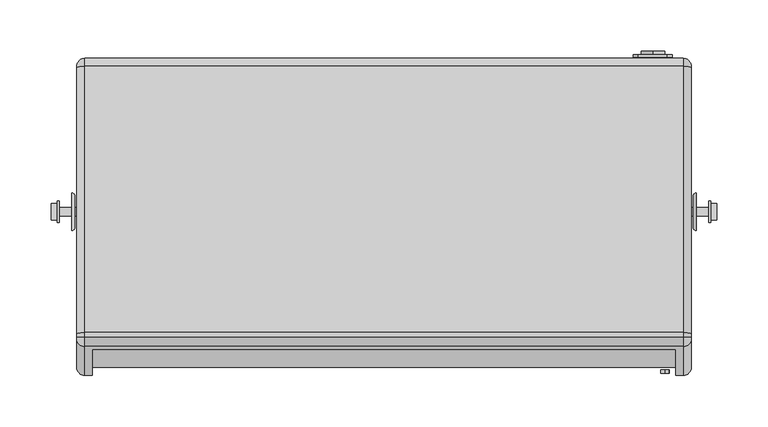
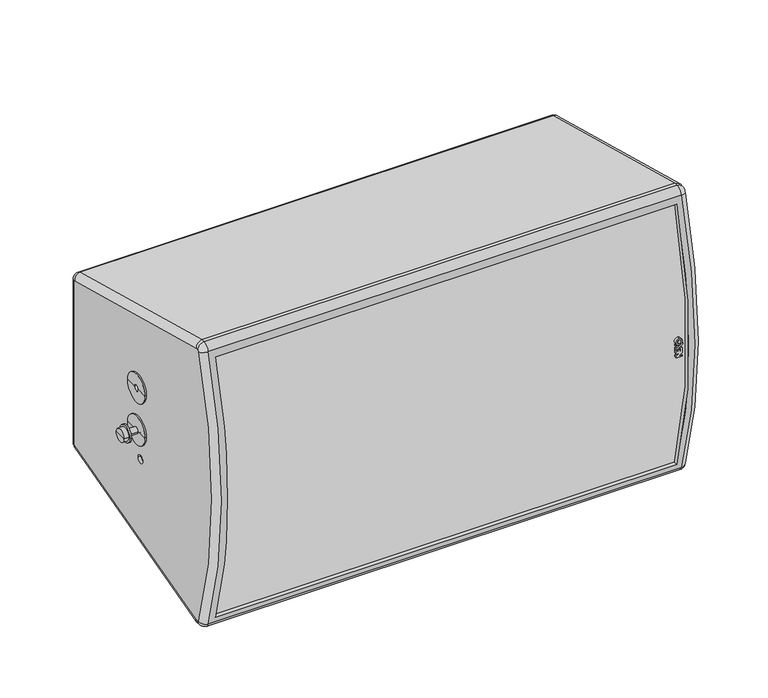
"""IFC4 building model written with IfcOpenShell, lengths in millimetres: proxy geometry, ePS12-WM380-HBRK600-WHM : ePS12-WM380-HBRK600-WHM."""

from ifc_helpers import new_model, si_unit, point, frame, frame_2d, origin, place, context, project, spatial, polyline, circle_curve, ellipse_curve, trimmed, segment, composite_curve, outline, extrude, source, transform, mapped, element, save
from ifc_brep_helpers import plane_surface, cylinder_surface, revolved_surface, advanced_brep


def generic_models_40186b0a(model_context):
    return source(origin(), model_context, "Body", "SolidModel", [
        extrude(outline(polyline([(-318.4376119, 270.5590531), (-318.4376119, 277.8388202), (-316.5452446, 277.8388202), (-316.5452446, 273.6734899), (-313.7701477, 277.8388202), (-306.919238, 277.8388202), (-305.6006657, 275.963849), (-306.6640428, 274.3643156), (-308.0335854, 276.2361557), (-311.0672147, 276.2361557), (-311.0672147, 274.9818684), (-308.7841019, 274.9818684), (-308.7841019, 273.3791381), (-311.0672147, 273.3791381), (-311.0672147, 272.1626349), (-308.66014, 272.1626349), (-308.66014, 271.3626349), (-309.1937988, 270.5599046), (-313.4621748, 270.5599046), (-313.4718664, 275.0099607), (-316.4111326, 270.5590531), (-318.4376119, 270.5590531)])), frame((0.0, -537.430519, 0.0), z_axis=(0.0, 1.0, 0.0), x_axis=(0.0, 0.0, 1.0)), (0.0, 0.0, 1.0), 3.5087945),
        extrude(outline(polyline([(-308.5524837, 270.5590531), (-303.0738645, 278.8), (-300.8806617, 278.8), (-306.3592809, 270.5590531), (-308.5524837, 270.5590531)])), frame((0.0, -537.430519, 0.0), z_axis=(0.0, 1.0, 0.0), x_axis=(0.0, 0.0, 1.0)), (0.0, 0.0, 1.0), 3.5087945),
        extrude(outline(polyline([(-301.8118496, 270.5590531), (-304.1386402, 270.5590531), (-304.8864345, 271.8270101), (-303.8022087, 273.457904), (-301.8118496, 270.5590531)])), frame((0.0, -537.430519, 0.0), z_axis=(0.0, 1.0, 0.0), x_axis=(0.0, 0.0, 1.0)), (0.0, 0.0, 1.0), 3.5087945),
        extrude(outline(composite_curve([segment(trimmed(circle_curve(frame_2d((-298.4262384, 274.2298911)), 3.9406238), [point((-302.3668623, 274.2298911))], [point((-294.4856146, 274.2298911))], False, "CARTESIAN"), True, "CONTINUOUS"), segment(trimmed(circle_curve(frame_2d((-298.4262384, 274.2298911)), 3.9406238), [point((-294.4856146, 274.2298911))], [point((-302.3668623, 274.2298911))], False, "CARTESIAN"), True, "CONTINUOUS")], self_intersect=False), holes=[composite_curve([segment(trimmed(circle_curve(frame_2d((-298.4262384, 274.2298911)), 2.0681078), [point((-300.4943462, 274.2298911))], [point((-296.3581307, 274.2298911))], True, "CARTESIAN"), True, "CONTINUOUS"), segment(trimmed(circle_curve(frame_2d((-298.4262384, 274.2298911)), 2.0681078), [point((-296.3581307, 274.2298911))], [point((-300.4943462, 274.2298911))], True, "CARTESIAN"), True, "CONTINUOUS")], self_intersect=False)]), frame((0.0, -537.430519, 0.0), z_axis=(0.0, 1.0, 0.0), x_axis=(0.0, 0.0, 1.0)), (0.0, 0.0, 1.0), 3.5087945),
        extrude(outline(composite_curve([segment(trimmed(circle_curve(frame_2d((-276.5012591, 262.5)), 11.4515227), [point((-265.0497365, 262.5))], [point((-287.9527818, 262.5))], False, "CARTESIAN"), True, "CONTINUOUS"), segment(trimmed(circle_curve(frame_2d((-276.5012591, 262.5)), 11.4515227), [point((-287.9527818, 262.5))], [point((-265.0497365, 262.5))], False, "CARTESIAN"), True, "CONTINUOUS")], self_intersect=False), holes=[composite_curve([segment(trimmed(circle_curve(frame_2d((-276.5012591, 262.5)), 5.0), [point((-271.5012591, 262.5))], [point((-281.5012591, 262.5))], True, "CARTESIAN"), True, "CONTINUOUS"), segment(trimmed(circle_curve(frame_2d((-276.5012591, 262.5)), 5.0), [point((-281.5012591, 262.5))], [point((-271.5012591, 262.5))], True, "CARTESIAN"), True, "CONTINUOUS")], self_intersect=False)]), frame((0.0, -225.9052646, 0.0), z_axis=(0.0, 1.0, 0.0), x_axis=(0.0, 0.0, 1.0)), (0.0, 0.0, 1.0), 3.4052646),
        extrude(outline(composite_curve([segment(trimmed(circle_curve(frame_2d((-336.5012591, 262.5)), 11.4515227), [point((-325.0497365, 262.5))], [point((-347.9527818, 262.5))], False, "CARTESIAN"), True, "CONTINUOUS"), segment(trimmed(circle_curve(frame_2d((-336.5012591, 262.5)), 11.4515227), [point((-347.9527818, 262.5))], [point((-325.0497365, 262.5))], False, "CARTESIAN"), True, "CONTINUOUS")], self_intersect=False), holes=[composite_curve([segment(trimmed(circle_curve(frame_2d((-336.5012591, 262.5)), 5.0), [point((-331.5012591, 262.5))], [point((-341.5012591, 262.5))], True, "CARTESIAN"), True, "CONTINUOUS"), segment(trimmed(circle_curve(frame_2d((-336.5012591, 262.5)), 5.0), [point((-341.5012591, 262.5))], [point((-331.5012591, 262.5))], True, "CARTESIAN"), True, "CONTINUOUS")], self_intersect=False)]), frame((0.0, -225.9052646, 0.0), z_axis=(0.0, 1.0, 0.0), x_axis=(0.0, 0.0, 1.0)), (0.0, 0.0, 1.0), 3.4052646),
        extrude(outline(composite_curve([segment(polyline([(-253.5012591, 243.5), (-359.5012591, 243.5)]), True, "CONTINUOUS"), segment(trimmed(circle_curve(frame_2d((-359.5012591, 248.5)), 5.0), [point((-359.5012591, 243.5))], [point((-364.5012591, 248.5))], False, "CARTESIAN"), True, "CONTINUOUS"), segment(polyline([(-364.5012591, 248.5), (-364.5012591, 276.5)]), True, "CONTINUOUS"), segment(trimmed(circle_curve(frame_2d((-359.5012591, 276.5)), 5.0), [point((-364.5012591, 276.5))], [point((-359.5012591, 281.5))], False, "CARTESIAN"), True, "CONTINUOUS"), segment(polyline([(-359.5012591, 281.5), (-253.5012591, 281.5)]), True, "CONTINUOUS"), segment(trimmed(circle_curve(frame_2d((-253.5012591, 276.5)), 5.0), [point((-253.5012591, 281.5))], [point((-248.5012591, 276.5))], False, "CARTESIAN"), True, "CONTINUOUS"), segment(polyline([(-248.5012591, 276.5), (-248.5012591, 248.5)]), True, "CONTINUOUS"), segment(trimmed(circle_curve(frame_2d((-253.5012591, 248.5)), 5.0), [point((-248.5012591, 248.5))], [point((-253.5012591, 243.5))], False, "CARTESIAN"), True, "CONTINUOUS")], self_intersect=False)), frame((0.0, -228.4052646, 0.0), z_axis=(0.0, 1.0, 0.0), x_axis=(0.0, 0.0, 1.0)), (0.0, 0.0, 1.0), 2.5),
        advanced_brep(
        [(-300.0, -239.0301041, -199.0530609), (-300.0, -237.5477422, -200.9849126), (-300.0, -237.5477422, -412.0176057), (-300.0, -239.0301041, -413.9494573), (-300.0, -498.6009622, -483.5012591), (-300.0, -501.8259262, -483.5012591), (-300.0, -503.7280348, -482.119307), (-300.0, -503.7280348, -130.8832113), (-300.0, -501.8259262, -129.5012591), (-300.0, -498.6009622, -129.5012591), (-300.0, -384.5, -306.5012591), (-300.0, -374.5, -306.5012591), (-300.0, -384.5, -346.5012591), (-300.0, -374.5, -346.5012591), (-300.0, -384.5, -266.5012591), (-300.0, -374.5, -266.5012591), (300.0, -237.5477422, -200.9849126), (300.0, -239.0301041, -199.0530609), (300.0, -498.6009622, -129.5012591), (300.0, -501.8259262, -129.5012591), (300.0, -503.7280348, -130.8832113), (300.0, -503.7280348, -482.119307), (300.0, -501.8259262, -483.5012591), (300.0, -498.6009622, -483.5012591), (300.0, -239.0301041, -413.9494573), (300.0, -237.5477422, -412.0176057), (300.0, -374.5, -306.5012591), (300.0, -384.5, -306.5012591), (300.0, -374.5, -346.5012591), (300.0, -384.5, -346.5012591), (300.0, -374.5, -266.5012591), (300.0, -384.5, -266.5012591), (-296.0, -374.5, -306.5012591), (-296.0, -384.5, -306.5012591), (-296.0, -374.5, -346.5012591), (-296.0, -384.5, -346.5012591), (-296.0, -374.5, -266.5012591), (-296.0, -384.5, -266.5012591), (-285.0, -513.8995103, -476.5012591), (-285.0, -508.7156738, -476.5012591), (-285.0, -508.7156738, -136.5012591), (-285.0, -513.8995103, -136.5012591), (285.0, -513.8995103, -136.5012591), (285.0, -508.7156738, -136.5012591), (285.0, -508.7156738, -476.5012591), (285.0, -513.8995103, -476.5012591), (296.0, -374.5, -306.5012591), (296.0, -384.5, -306.5012591), (296.0, -374.5, -346.5012591), (296.0, -384.5, -346.5012591), (296.0, -374.5, -266.5012591), (296.0, -384.5, -266.5012591), (0.0, -234.5, -335.8445414), (0.0, -234.5, -347.1578618), (0.0, -234.5, -265.8445414), (0.0, -234.5, -277.1578618), (-70.0, -234.5, -335.8445414), (-70.0, -234.5, -347.1578618), (0.0, -229.5477422, -347.1578618), (0.0, -229.5477422, -335.8445414), (0.0, -229.5477422, -277.1578618), (0.0, -229.5477422, -265.8445414), (-292.0, -229.5477422, -412.0176057), (-292.0, -229.5477422, -200.9849126), (292.0000078, -229.5477422, -200.9849126), (292.0, -229.5477422, -412.0176057), (-70.0, -229.5477422, -347.1578618), (-70.0, -229.5477422, -335.8445414), (-292.0, -236.9595518, -421.676864), (292.0, -236.9595518, -421.676864), (-292.0, -497.5477422, -491.5012591), (292.0, -497.5477422, -491.5012591), (-292.0, -501.8259262, -491.5012591), (292.0, -501.8259262, -491.5012591), (-292.0, -511.3364689, -128.4110201), (-292.0, -511.3364689, -484.5914982), (292.0000037, -511.3364689, -484.5914982), (292.0, -511.3364689, -128.4110201), (-292.0, -497.5477422, -121.5012591), (-292.0, -501.8259262, -121.5012591), (292.0, -501.8259262, -121.5012591), (292.0, -497.5477422, -121.5012591), (-292.0, -236.9595518, -191.3256543), (292.0, -236.9595518, -191.3256543)],
        [
            (0, 1, circle_curve(frame((-300.0, -239.5477422, -200.9849126), z_axis=(-1.0, 0.0, 0.0), x_axis=(0.0, 1.0, 0.0)), 2.0)),
            (1, 2),
            (2, 3, circle_curve(frame((-300.0, -239.5477422, -412.0176057), z_axis=(-1.0, 0.0, 0.0), x_axis=(0.0, 0.2588190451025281, -0.9659258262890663)), 2.0)),
            (3, 4),
            (4, 5),
            (5, 6, circle_curve(frame((-300.0, -501.8259262, -481.5012591), z_axis=(-1.0, 0.0, 0.0), x_axis=(0.0, -0.9510542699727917, -0.3090239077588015)), 2.0)),
            (6, 7, circle_curve(frame((-300.0, 36.7553714, -306.5012591), z_axis=(-1.0, 0.0, 0.0), x_axis=(0.0, -0.9510542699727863, 0.309023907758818)), 568.2992267)),
            (7, 8, circle_curve(frame((-300.0, -501.8259262, -131.5012591), z_axis=(-1.0, 0.0, 0.0), x_axis=(0.0, 0.0, 1.0)), 2.0)),
            (8, 9),
            (9, 0),
            (10, 11, circle_curve(frame((-300.0, -379.5, -306.5012591), z_axis=(1.0, 0.0, 0.0), x_axis=(0.0, -1.0, 0.0)), 5.0)),
            (11, 10, circle_curve(frame((-300.0, -379.5, -306.5012591), z_axis=(1.0, 0.0, 0.0), x_axis=(0.0, -1.0, 0.0)), 5.0)),
            (12, 13, circle_curve(frame((-300.0, -379.5, -346.5012591), z_axis=(1.0, 0.0, 0.0), x_axis=(0.0, -1.0, 0.0)), 5.0)),
            (13, 12, circle_curve(frame((-300.0, -379.5, -346.5012591), z_axis=(1.0, 0.0, 0.0), x_axis=(0.0, -1.0, 0.0)), 5.0)),
            (14, 15, circle_curve(frame((-300.0, -379.5, -266.5012591), z_axis=(1.0, 0.0, 0.0), x_axis=(0.0, -1.0, 0.0)), 5.0)),
            (15, 14, circle_curve(frame((-300.0, -379.5, -266.5012591), z_axis=(1.0, 0.0, 0.0), x_axis=(0.0, -1.0, 0.0)), 5.0)),
            (16, 17, circle_curve(frame((300.0, -239.5477422, -200.9849126), z_axis=(1.0, 0.0, 0.0), x_axis=(0.0, 1.0, 0.0)), 2.0)),
            (17, 18),
            (18, 19),
            (19, 20, circle_curve(frame((300.0, -501.8259262, -131.5012591), z_axis=(1.0, 0.0, 0.0), x_axis=(0.0, 0.0, 1.0)), 2.0)),
            (20, 21, circle_curve(frame((300.0, 36.7553714, -306.5012591), z_axis=(1.0, 0.0, 0.0), x_axis=(0.0, -0.9510542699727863, 0.309023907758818)), 568.2992267)),
            (21, 22, circle_curve(frame((300.0, -501.8259262, -481.5012591), z_axis=(1.0, 0.0, 0.0), x_axis=(0.0, -0.9510542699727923, -0.3090239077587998)), 2.0)),
            (22, 23),
            (23, 24),
            (24, 25, circle_curve(frame((300.0, -239.5477422, -412.0176057), z_axis=(1.0, 0.0, 0.0), x_axis=(0.0, 0.258819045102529, -0.9659258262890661)), 2.0)),
            (25, 16),
            (26, 27, circle_curve(frame((300.0, -379.5, -306.5012591), z_axis=(-1.0, 0.0, 0.0), x_axis=(0.0, -1.0, 0.0)), 5.0)),
            (27, 26, circle_curve(frame((300.0, -379.5, -306.5012591), z_axis=(-1.0, 0.0, 0.0), x_axis=(0.0, -1.0, 0.0)), 5.0)),
            (28, 29, circle_curve(frame((300.0, -379.5, -346.5012591), z_axis=(-1.0, 0.0, 0.0), x_axis=(0.0, -1.0, 0.0)), 5.0)),
            (29, 28, circle_curve(frame((300.0, -379.5, -346.5012591), z_axis=(-1.0, 0.0, 0.0), x_axis=(0.0, -1.0, 0.0)), 5.0)),
            (30, 31, circle_curve(frame((300.0, -379.5, -266.5012591), z_axis=(-1.0, 0.0, 0.0), x_axis=(0.0, -1.0, 0.0)), 5.0)),
            (31, 30, circle_curve(frame((300.0, -379.5, -266.5012591), z_axis=(-1.0, 0.0, 0.0), x_axis=(0.0, -1.0, 0.0)), 5.0)),
            (32, 33, circle_curve(frame((-296.0, -379.5, -306.5012591), z_axis=(-1.0, 0.0, 0.0), x_axis=(0.0, -1.0, 0.0)), 5.0)),
            (33, 32, circle_curve(frame((-296.0, -379.5, -306.5012591), z_axis=(-1.0, 0.0, 0.0), x_axis=(0.0, -1.0, 0.0)), 5.0)),
            (34, 35, circle_curve(frame((-296.0, -379.5, -346.5012591), z_axis=(-1.0, 0.0, 0.0), x_axis=(0.0, -1.0, 0.0)), 5.0)),
            (35, 34, circle_curve(frame((-296.0, -379.5, -346.5012591), z_axis=(-1.0, 0.0, 0.0), x_axis=(0.0, -1.0, 0.0)), 5.0)),
            (36, 37, circle_curve(frame((-296.0, -379.5, -266.5012591), z_axis=(-1.0, 0.0, 0.0), x_axis=(0.0, -1.0, 0.0)), 5.0)),
            (37, 36, circle_curve(frame((-296.0, -379.5, -266.5012591), z_axis=(-1.0, 0.0, 0.0), x_axis=(0.0, -1.0, 0.0)), 5.0)),
            (32, 11),
            (10, 33),
            (34, 13),
            (12, 35),
            (36, 15),
            (14, 37),
            (38, 39),
            (39, 40, circle_curve(frame((-285.0, 43.2564106, -306.5012591), z_axis=(-1.0, 0.0, 0.0), x_axis=(0.0, 0.0, 1.0)), 577.5579469)),
            (40, 41),
            (41, 38, circle_curve(frame((-285.0, 36.7553714, -306.5012591), z_axis=(1.0, 0.0, 0.0), x_axis=(0.0, 0.0, 1.0)), 576.2992267)),
            (42, 43),
            (43, 44, circle_curve(frame((285.0, 43.2564106, -306.5012591), z_axis=(1.0, 0.0, 0.0), x_axis=(0.0, 0.0, 1.0)), 577.5579469)),
            (44, 45),
            (45, 42, circle_curve(frame((285.0, 36.7553714, -306.5012591), z_axis=(-1.0, 0.0, 0.0), x_axis=(0.0, 0.0, 1.0)), 576.2992267)),
            (46, 47, circle_curve(frame((296.0, -379.5, -306.5012591), z_axis=(1.0, 0.0, 0.0), x_axis=(0.0, -1.0, 0.0)), 5.0)),
            (47, 46, circle_curve(frame((296.0, -379.5, -306.5012591), z_axis=(1.0, 0.0, 0.0), x_axis=(0.0, -1.0, 0.0)), 5.0)),
            (48, 49, circle_curve(frame((296.0, -379.5, -346.5012591), z_axis=(1.0, 0.0, 0.0), x_axis=(0.0, -1.0, 0.0)), 5.0)),
            (49, 48, circle_curve(frame((296.0, -379.5, -346.5012591), z_axis=(1.0, 0.0, 0.0), x_axis=(0.0, -1.0, 0.0)), 5.0)),
            (50, 51, circle_curve(frame((296.0, -379.5, -266.5012591), z_axis=(1.0, 0.0, 0.0), x_axis=(0.0, -1.0, 0.0)), 5.0)),
            (51, 50, circle_curve(frame((296.0, -379.5, -266.5012591), z_axis=(1.0, 0.0, 0.0), x_axis=(0.0, -1.0, 0.0)), 5.0)),
            (47, 27),
            (26, 46),
            (49, 29),
            (28, 48),
            (51, 31),
            (30, 50),
            (52, 53, circle_curve(frame((0.0, -234.5, -341.5012016), z_axis=(0.0, 1.0, 0.0), x_axis=(0.0, 0.0, -1.0)), 5.6566602)),
            (53, 52, circle_curve(frame((0.0, -234.5, -341.5012016), z_axis=(0.0, 1.0, 0.0), x_axis=(0.0, 0.0, -1.0)), 5.6566602)),
            (54, 55, circle_curve(frame((0.0, -234.5, -271.5012016), z_axis=(0.0, 1.0, 0.0), x_axis=(0.0, 0.0, -1.0)), 5.6566602)),
            (55, 54, circle_curve(frame((0.0, -234.5, -271.5012016), z_axis=(0.0, 1.0, 0.0), x_axis=(0.0, 0.0, -1.0)), 5.6566602)),
            (56, 57, circle_curve(frame((-70.0, -234.5, -341.5012016), z_axis=(0.0, 1.0, 0.0), x_axis=(0.0, 0.0, -1.0)), 5.6566602)),
            (57, 56, circle_curve(frame((-70.0, -234.5, -341.5012016), z_axis=(0.0, 1.0, 0.0), x_axis=(0.0, 0.0, -1.0)), 5.6566602)),
            (53, 58),
            (58, 59, circle_curve(frame((0.0, -229.5477422, -341.5012016), z_axis=(0.0, 1.0, 0.0), x_axis=(0.0, 0.0, -1.0)), 5.6566602)),
            (59, 52),
            (59, 58, circle_curve(frame((0.0, -229.5477422, -341.5012016), z_axis=(0.0, 1.0, 0.0), x_axis=(0.0, 0.0, -1.0)), 5.6566602)),
            (55, 60),
            (60, 61, circle_curve(frame((0.0, -229.5477422, -271.5012016), z_axis=(0.0, 1.0, 0.0), x_axis=(0.0, 0.0, -1.0)), 5.6566602)),
            (61, 54),
            (61, 60, circle_curve(frame((0.0, -229.5477422, -271.5012016), z_axis=(0.0, 1.0, 0.0), x_axis=(0.0, 0.0, -1.0)), 5.6566602)),
            (62, 63),
            (63, 64),
            (64, 65),
            (65, 62),
            (66, 67, circle_curve(frame((-70.0, -229.5477422, -341.5012016), z_axis=(0.0, -1.0, 0.0), x_axis=(0.0, 0.0, -1.0)), 5.6566602)),
            (67, 66, circle_curve(frame((-70.0, -229.5477422, -341.5012016), z_axis=(0.0, -1.0, 0.0), x_axis=(0.0, 0.0, -1.0)), 5.6566602)),
            (68, 62, circle_curve(frame((-292.0, -239.5477422, -412.0176057), z_axis=(1.0, 0.0, 0.0), x_axis=(0.0, 0.0, 1.0)), 10.0)),
            (65, 69, circle_curve(frame((292.0, -239.5477422, -412.0176057), z_axis=(-1.0, 0.0, 0.0), x_axis=(0.0, 0.0, 1.0)), 10.0)),
            (69, 68),
            (70, 68),
            (69, 71),
            (71, 70),
            (72, 70),
            (71, 73),
            (73, 72),
            (74, 75, circle_curve(frame((-292.0, 36.7553714, -306.5012591), z_axis=(1.0, 0.0, 0.0), x_axis=(0.0, 0.0, 1.0)), 576.2992267)),
            (75, 76),
            (76, 77, circle_curve(frame((292.0, 36.7553714, -306.5012591), z_axis=(-1.0, 0.0, 0.0), x_axis=(0.0, 0.0, 1.0)), 576.2992267)),
            (77, 74),
            (41, 42),
            (45, 38),
            (78, 79),
            (79, 80),
            (80, 81),
            (81, 78),
            (82, 78),
            (81, 83),
            (83, 82),
            (63, 82, circle_curve(frame((-292.0, -239.5477422, -200.9849126), z_axis=(1.0, 0.0, 0.0), x_axis=(0.0, 0.0, 1.0)), 10.0)),
            (83, 64, circle_curve(frame((292.0, -239.5477422, -200.9849126), z_axis=(-1.0, 0.0, 0.0), x_axis=(0.0, 0.0, 1.0)), 10.0)),
            (56, 67),
            (66, 57),
            (40, 43),
            (39, 44),
            (75, 72, circle_curve(frame((-292.0, -501.8259262, -481.5012591), z_axis=(1.0, 0.0, 0.0), x_axis=(0.0, 0.0, 1.0)), 10.0)),
            (73, 76, circle_curve(frame((292.0, -501.8259262, -481.5012591), z_axis=(-1.0, 0.0, 0.0), x_axis=(0.0, 0.0, 1.0)), 10.0)),
            (79, 74, circle_curve(frame((-292.0, -501.8259262, -131.5012591), z_axis=(1.0, 0.0, 0.0), x_axis=(0.0, 0.0, 1.0)), 10.0)),
            (77, 80, circle_curve(frame((292.0, -501.8259262, -131.5012591), z_axis=(-1.0, 0.0, 0.0), x_axis=(0.0, 0.0, 1.0)), 10.0)),
            (0, 82, circle_curve(frame((-292.0, -239.0301041, -199.0530609), z_axis=(0.0, 0.9659258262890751, -0.2588190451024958), x_axis=(0.0, 0.2588190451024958, 0.9659258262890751)), 8.0)),
            (63, 1, circle_curve(frame((-292.0, -237.5477422, -200.9849126), z_axis=(0.0, 0.0, 1.0), x_axis=(0.0, 1.0, 0.0)), 8.0)),
            (9, 78, ellipse_curve(frame((-292.0, -498.6009622, -129.5012591), z_axis=(0.0, 0.9914448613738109, -0.13052619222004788), x_axis=(0.0, 0.1305261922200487, 0.9914448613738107)), 8.0690317, 8.0)),
            (8, 79, circle_curve(frame((-292.0, -501.8259262, -129.5012591), z_axis=(0.0, 1.0, 0.0), x_axis=(0.0, 0.0, 1.0)), 8.0)),
            (7, 74, circle_curve(frame((-292.0, -503.7280348, -130.8832113), z_axis=(0.0, 0.3090239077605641, 0.951054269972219), x_axis=(0.0, -0.951054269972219, 0.3090239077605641)), 8.0)),
            (6, 75, circle_curve(frame((-292.0, -503.7280348, -482.119307), z_axis=(0.0, -0.3090239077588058, 0.9510542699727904), x_axis=(0.0, -0.9510542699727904, -0.3090239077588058)), 8.0)),
            (5, 72, circle_curve(frame((-292.0, -501.8259262, -483.5012591), z_axis=(0.0, -1.0, 0.0), x_axis=(0.0, 0.0, -1.0)), 8.0)),
            (4, 70, ellipse_curve(frame((-292.0, -498.6009622, -483.5012591), z_axis=(0.0, -0.9914448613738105, -0.13052619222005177), x_axis=(0.0, 0.13052619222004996, -0.9914448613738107)), 8.0690317, 8.0)),
            (3, 68, circle_curve(frame((-292.0, -239.0301041, -413.9494573), z_axis=(0.0, -0.9659258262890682, -0.2588190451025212), x_axis=(0.0, 0.2588190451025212, -0.9659258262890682)), 8.0)),
            (2, 62, circle_curve(frame((-292.0, -237.5477422, -412.0176057), z_axis=(0.0, 0.0, -1.0), x_axis=(0.0, 1.0, 0.0)), 8.0)),
            (83, 17, circle_curve(frame((292.0, -239.0301041, -199.0530609), z_axis=(0.0, 0.9659258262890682, -0.25881904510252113), x_axis=(0.0, 0.25881904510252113, 0.9659258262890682)), 8.0)),
            (16, 64, circle_curve(frame((292.0, -237.5477422, -200.9849126), z_axis=(0.0, 0.0, 1.0), x_axis=(0.0, 1.0, 0.0)), 8.0)),
            (81, 18, ellipse_curve(frame((292.0, -498.6009622, -129.5012591), z_axis=(0.0, 0.9914448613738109, -0.1305261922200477), x_axis=(0.0, 0.13052619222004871, 0.9914448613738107)), 8.0690317, 8.0)),
            (80, 19, circle_curve(frame((292.0, -501.8259262, -129.5012591), z_axis=(0.0, 1.0, 0.0), x_axis=(0.0, 0.0, 1.0)), 8.0)),
            (77, 20, circle_curve(frame((292.0, -503.7280348, -130.8832113), z_axis=(0.0, 0.30902390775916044, 0.951054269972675), x_axis=(0.0, -0.951054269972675, 0.30902390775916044)), 8.0)),
            (76, 21, circle_curve(frame((292.0, -503.7280348, -482.119307), z_axis=(0.0, -0.3090239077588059, 0.9510542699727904), x_axis=(0.0, -0.9510542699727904, -0.3090239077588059)), 8.0)),
            (73, 22, circle_curve(frame((292.0, -501.8259262, -483.5012591), z_axis=(0.0, -0.9999999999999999, 0.0), x_axis=(0.0, 0.0, -0.9999999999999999)), 8.0)),
            (71, 23, ellipse_curve(frame((292.0, -498.6009622, -483.5012591), z_axis=(0.0, -0.9914448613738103, -0.13052619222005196), x_axis=(0.0, 0.13052619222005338, -0.9914448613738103)), 8.0690317, 8.0)),
            (69, 24, circle_curve(frame((292.0, -239.0301041, -413.9494573), z_axis=(0.0, -0.9659258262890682, -0.2588190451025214), x_axis=(0.0, 0.2588190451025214, -0.9659258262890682)), 8.0)),
            (65, 25, circle_curve(frame((292.0, -237.5477422, -412.0176057), z_axis=(0.0, 0.0, -1.0), x_axis=(0.0, 1.0, 0.0)), 8.0)),
        ],
        [
            plane_surface(frame((-300.0, -229.5477422, -418.1736814), z_axis=(-1.0, 0.0, 0.0), x_axis=(0.0, 0.0, -1.0))),
            plane_surface(frame((300.0, -229.5477422, -418.1736814), z_axis=(1.0, 0.0, 0.0), x_axis=(0.0, 0.0, 1.0))),
            plane_surface(frame((-296.0, -384.5, -306.5012591), z_axis=(-1.0, 0.0, 0.0), x_axis=(0.0, 0.0, -1.0))),
            revolved_surface(polyline([(-300.0, -384.5, -306.5012591), (-296.0, -384.5, -306.5012591)]), (-296.0, -379.5, -306.5012591), (-1.0, 0.0, 0.0)),
            revolved_surface(polyline([(-300.0, -384.5, -346.5012591), (-296.0, -384.5, -346.5012591)]), (-300.0, -379.5, -346.5012591), (-1.0, 0.0, 0.0)),
            revolved_surface(polyline([(-300.0, -384.5, -266.5012591), (-296.0, -384.5, -266.5012591)]), (-300.0, -379.5, -266.5012591), (-1.0, 0.0, 0.0)),
            plane_surface(frame((-285.0, -513.8995103, -136.5012591), z_axis=(1.0, 0.0, 0.0), x_axis=(0.0, 1.0, 0.0))),
            plane_surface(frame((285.0, -513.8995103, -136.5012591), z_axis=(-1.0, 0.0, 0.0), x_axis=(0.0, -1.0, 0.0))),
            plane_surface(frame((296.0, -384.5, -306.5012591), z_axis=(1.0, 0.0, 0.0), x_axis=(0.0, 0.0, 1.0))),
            revolved_surface(polyline([(296.0, -384.5, -306.5012591), (300.0, -384.5, -306.5012591)]), (304.0, -379.5, -306.5012591), (-1.0, 0.0, 0.0)),
            revolved_surface(polyline([(296.0, -384.5, -346.5012591), (300.0, -384.5, -346.5012591)]), (300.0, -379.5, -346.5012591), (-1.0, 0.0, 0.0)),
            revolved_surface(polyline([(296.0, -384.5, -266.5012591), (300.0, -384.5, -266.5012591)]), (300.0, -379.5, -266.5012591), (-1.0, 0.0, 0.0)),
            plane_surface(frame((0.0, -234.5, -347.1578618), z_axis=(0.0, 1.0, 0.0), x_axis=(1.0, 0.0, 0.0))),
            revolved_surface(polyline([(0.0, -229.5477422, -347.1578618), (0.0, -234.5, -347.1578618)]), (0.0, -234.5, -341.5012016), (0.0, 1.0, 0.0)),
            revolved_surface(polyline([(0.0, -229.5477422, -277.1578618), (0.0, -234.5, -277.1578618)]), (0.0, -222.5, -271.5012016), (0.0, 1.0, 0.0)),
            plane_surface(frame((-300.0, -229.5477422, -200.9849126), z_axis=(0.0, 1.0, 0.0), x_axis=(1.0, 0.0, 0.0))),
            cylinder_surface(frame((300.0, -239.5477422, -412.0176057), z_axis=(-1.0, 0.0, 0.0), x_axis=(0.0, 0.0, 1.0)), 10.0),
            plane_surface(frame((-300.0, -236.9595518, -421.676864), z_axis=(0.0, 0.2588190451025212, -0.9659258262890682), x_axis=(1.0, 0.0, 0.0))),
            plane_surface(frame((-300.0, -497.5477422, -491.5012591), z_axis=(0.0, 0.0, -1.0), x_axis=(1.0, 0.0, 0.0))),
            cylinder_surface(frame((300.0, 36.7553714, -306.5012591), z_axis=(-1.0, 0.0, 0.0), x_axis=(0.0, 0.0, 1.0)), 576.2992267),
            plane_surface(frame((-300.0, -501.8259262, -121.5012591), z_axis=(0.0, 0.0, 1.0), x_axis=(1.0, 0.0, 0.0))),
            plane_surface(frame((-300.0, -497.5477422, -121.5012591), z_axis=(0.0, 0.2588190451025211, 0.9659258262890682), x_axis=(1.0, 0.0, 0.0))),
            cylinder_surface(frame((300.0, -239.5477422, -200.9849126), z_axis=(-1.0, 0.0, 0.0), x_axis=(0.0, 0.0, 1.0)), 10.0),
            revolved_surface(polyline([(-70.0, -229.5477422, -347.1578618), (-70.0, -234.5, -347.1578618)]), (-70.0, -222.5, -341.5012016), (0.0, 1.0, 0.0)),
            plane_surface(frame((-285.0, -513.8995103, -136.5012591), z_axis=(0.0, 0.0, -1.0), x_axis=(1.0, 0.0, 0.0))),
            cylinder_surface(frame((285.0, 43.2564106, -306.5012591), z_axis=(1.0, 0.0, 0.0), x_axis=(0.0, 0.0, 1.0)), 577.5579469),
            plane_surface(frame((-285.0, -508.7156738, -476.5012591), z_axis=(0.0, 0.0, 1.0), x_axis=(1.0, 0.0, 0.0))),
            cylinder_surface(frame((300.0, -501.8259262, -481.5012591), z_axis=(-1.0, 0.0, 0.0), x_axis=(0.0, 0.0, 1.0)), 10.0),
            cylinder_surface(frame((300.0, -501.8259262, -131.5012591), z_axis=(-1.0, 0.0, 0.0), x_axis=(0.0, 0.0, 1.0)), 10.0),
            revolved_surface(trimmed(ellipse_curve(frame((-292.0, -237.5477422, -200.9849126), z_axis=(0.0, 0.0, -1.0), x_axis=(0.0, 1.0, 0.0)), 8.0, 8.0), [point((-300.0, -237.5477422, -200.9849126))], [point((-292.0, -229.5477422, -200.9849126))], True, "CARTESIAN"), (-300.0, -239.5477422, -200.9849126), (1.0, 0.0, 0.0)),
            cylinder_surface(frame((-292.0, -239.0301041, -199.0530609), z_axis=(0.0, -0.9659258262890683, 0.25881904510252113), x_axis=(0.0, 0.25881904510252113, 0.9659258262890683)), 8.0),
            cylinder_surface(frame((-292.0, -497.5477422, -129.5012591), z_axis=(0.0, -1.0, 0.0), x_axis=(0.0, 0.0, 1.0)), 8.0),
            revolved_surface(trimmed(ellipse_curve(frame((-292.0, -501.8259262, -129.5012591), z_axis=(0.0, 1.0, 0.0), x_axis=(0.0, 0.0, 1.0)), 8.0, 8.0), [point((-300.0, -501.8259262, -129.5012591))], [point((-292.0, -501.8259262, -121.5012591))], True, "CARTESIAN"), (-300.0, -501.8259262, -131.5012591), (1.0, 0.0, 0.0)),
            revolved_surface(trimmed(ellipse_curve(frame((-292.0, -503.7280348, -130.8832113), z_axis=(0.0, 0.3090239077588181, 0.9510542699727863), x_axis=(0.0, -0.9510542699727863, 0.3090239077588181)), 8.0, 8.0), [point((-300.0, -503.7280348, -130.8832113))], [point((-292.0, -511.3364689, -128.4110201))], True, "CARTESIAN"), (-300.0, 36.7553714, -306.5012591), (1.0, 0.0, 0.0)),
            revolved_surface(trimmed(ellipse_curve(frame((-292.0, -503.7280348, -482.119307), z_axis=(0.0, -0.3090239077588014, 0.9510542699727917), x_axis=(0.0, -0.9510542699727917, -0.3090239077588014)), 8.0, 8.0), [point((-300.0, -503.7280348, -482.119307))], [point((-292.0, -511.3364689, -484.5914982))], True, "CARTESIAN"), (-300.0, -501.8259262, -481.5012591), (1.0, 0.0, 0.0)),
            cylinder_surface(frame((-292.0, -501.8259262, -483.5012591), z_axis=(0.0, 1.0, 0.0), x_axis=(0.0, 0.0, -1.0)), 8.0),
            cylinder_surface(frame((-292.0, -499.6182946, -483.7738525), z_axis=(0.0, 0.9659258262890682, 0.2588190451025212), x_axis=(0.0, 0.2588190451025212, -0.9659258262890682)), 8.0),
            revolved_surface(trimmed(ellipse_curve(frame((-292.0, -239.0301041, -413.9494573), z_axis=(0.0, -0.9659258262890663, -0.25881904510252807), x_axis=(0.0, 0.25881904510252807, -0.9659258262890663)), 8.0, 8.0), [point((-300.0, -239.0301041, -413.9494573))], [point((-292.0, -236.9595518, -421.676864))], True, "CARTESIAN"), (-300.0, -239.5477422, -412.0176057), (1.0, 0.0, 0.0)),
            cylinder_surface(frame((-292.0, -237.5477422, -412.0176057), z_axis=(0.0, 0.0, 1.0), x_axis=(0.0, 1.0, 0.0)), 8.0),
            revolved_surface(trimmed(ellipse_curve(frame((292.0, -237.5477422, -200.9849126), z_axis=(0.0, 0.0, -1.0), x_axis=(0.0, 1.0, 0.0)), 8.0, 8.0), [point((292.0, -229.5477422, -200.9849126))], [point((300.0, -237.5477422, -200.9849126))], True, "CARTESIAN"), (300.0, -239.5477422, -200.9849126), (1.0, 0.0, 0.0)),
            cylinder_surface(frame((292.0, -239.0301041, -199.0530609), z_axis=(0.0, -0.9659258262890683, 0.2588190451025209), x_axis=(0.0, 0.2588190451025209, 0.9659258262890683)), 8.0),
            cylinder_surface(frame((292.0, -497.5477422, -129.5012591), z_axis=(0.0, -1.0, 0.0), x_axis=(0.0, 0.0, 1.0)), 8.0),
            revolved_surface(trimmed(ellipse_curve(frame((292.0, -501.8259262, -129.5012591), z_axis=(0.0, 1.0, 0.0), x_axis=(0.0, 0.0, 1.0)), 8.0, 8.0), [point((292.0, -501.8259262, -121.5012591))], [point((300.0, -501.8259262, -129.5012591))], True, "CARTESIAN"), (300.0, -501.8259262, -131.5012591), (1.0, 0.0, 0.0)),
            revolved_surface(trimmed(ellipse_curve(frame((292.0, -503.7280348, -130.8832113), z_axis=(0.0, 0.3090239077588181, 0.9510542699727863), x_axis=(0.0, -0.9510542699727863, 0.3090239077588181)), 8.0, 8.0), [point((292.0, -511.3364689, -128.4110201))], [point((300.0, -503.7280348, -130.8832113))], True, "CARTESIAN"), (300.0, 36.7553714, -306.5012591), (1.0, 0.0, 0.0)),
            revolved_surface(trimmed(ellipse_curve(frame((292.0, -503.7280348, -482.119307), z_axis=(0.0, -0.30902390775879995, 0.9510542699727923), x_axis=(0.0, -0.9510542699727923, -0.30902390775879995)), 8.0, 8.0), [point((292.0, -511.3364689, -484.5914982))], [point((300.0, -503.7280348, -482.119307))], True, "CARTESIAN"), (300.0, -501.8259262, -481.5012591), (1.0, 0.0, 0.0)),
            cylinder_surface(frame((292.0, -501.8259262, -483.5012591), z_axis=(0.0, 1.0, 0.0), x_axis=(0.0, 0.0, -1.0)), 8.0),
            cylinder_surface(frame((292.0, -499.6182946, -483.7738525), z_axis=(0.0, 0.9659258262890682, 0.2588190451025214), x_axis=(0.0, 0.2588190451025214, -0.9659258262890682)), 8.0),
            revolved_surface(trimmed(ellipse_curve(frame((292.0, -239.0301041, -413.9494573), z_axis=(0.0, -0.9659258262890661, -0.2588190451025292), x_axis=(0.0, 0.2588190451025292, -0.9659258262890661)), 8.0, 8.0), [point((292.0, -236.9595518, -421.676864))], [point((300.0, -239.0301041, -413.9494573))], True, "CARTESIAN"), (300.0, -239.5477422, -412.0176057), (1.0, 0.0, 0.0)),
            cylinder_surface(frame((292.0, -237.5477422, -412.0176057), z_axis=(0.0, 0.0, 1.0), x_axis=(0.0, 1.0, 0.0)), 8.0),
        ],
        [
            (0, [[1, 2, 3, 4, 5, 6, 7, 8, 9, 10], [11, 12], [13, 14], [15, 16]]),
            (1, [[17, 18, 19, 20, 21, 22, 23, 24, 25, 26], [27, 28], [29, 30], [31, 32]]),
            (2, [[33, 34]]),
            (2, [[35, 36]]),
            (2, [[37, 38]]),
            (3, [[-33, 39, -11, 40]]),
            (3, [[-34, -40, -12, -39]]),
            (4, [[-35, 41, -13, 42]]),
            (4, [[-36, -42, -14, -41]]),
            (5, [[-37, 43, -15, 44]]),
            (5, [[-38, -44, -16, -43]]),
            (6, [[45, 46, 47, 48]]),
            (7, [[49, 50, 51, 52]]),
            (8, [[53, 54]]),
            (8, [[55, 56]]),
            (8, [[57, 58]]),
            (9, [[-54, 59, -27, 60]]),
            (9, [[-53, -60, -28, -59]]),
            (10, [[-56, 61, -29, 62]]),
            (10, [[-55, -62, -30, -61]]),
            (11, [[-58, 63, -31, 64]]),
            (11, [[-57, -64, -32, -63]]),
            (12, [[65, 66]]),
            (12, [[67, 68]]),
            (12, [[69, 70]]),
            (13, [[-66, 71, 72, 73]]),
            (13, [[-65, -73, 74, -71]]),
            (14, [[-68, 75, 76, 77]]),
            (14, [[-67, -77, 78, -75]]),
            (15, [[79, 80, 81, 82], [-72, -74], [-76, -78], [83, 84]]),
            (16, [[85, -82, 86, 87]]),
            (17, [[88, -87, 89, 90]]),
            (18, [[91, -90, 92, 93]]),
            (19, [[94, 95, 96, 97], [-48, 98, -52, 99]]),
            (20, [[100, 101, 102, 103]]),
            (21, [[104, -103, 105, 106]]),
            (22, [[107, -106, 108, -80]]),
            (23, [[-69, 109, -83, 110]]),
            (23, [[-70, -110, -84, -109]]),
            (24, [[-47, 111, -49, -98]]),
            (25, [[-46, 112, -50, -111]]),
            (26, [[-45, -99, -51, -112]]),
            (27, [[113, -93, 114, -95]]),
            (28, [[115, -97, 116, -101]]),
            (29, [[117, -107, 118, -1]]),
            (30, [[-117, -10, 119, -104]]),
            (31, [[-119, -9, 120, -100]]),
            (32, [[-120, -8, 121, -115]]),
            (33, [[-121, -7, 122, -94]]),
            (34, [[-122, -6, 123, -113]]),
            (35, [[-123, -5, 124, -91]]),
            (36, [[-124, -4, 125, -88]]),
            (37, [[-125, -3, 126, -85]]),
            (38, [[-118, -79, -126, -2]]),
            (39, [[127, -17, 128, -108]]),
            (40, [[-127, -105, 129, -18]]),
            (41, [[-129, -102, 130, -19]]),
            (42, [[-130, -116, 131, -20]]),
            (43, [[-131, -96, 132, -21]]),
            (44, [[-132, -114, 133, -22]]),
            (45, [[-133, -92, 134, -23]]),
            (46, [[-134, -89, 135, -24]]),
            (47, [[-135, -86, 136, -25]]),
            (48, [[-128, -26, -136, -81]]),
        ],
    ),
        advanced_brep(
        [(305.0, -375.527433, -251.5012591), (305.0, -383.472567, -251.5012591), (305.0, -397.942415, -251.5012591), (305.0, -361.057585, -251.5012591), (302.0, -394.942415, -251.5012591), (302.0, -364.057585, -251.5012591), (302.0, -383.472567, -251.5012591), (302.0, -375.527433, -251.5012591)],
        [
            (0, 1, circle_curve(frame((305.0, -379.5, -251.5012591), z_axis=(-1.0, 0.0, 0.0), x_axis=(0.0, -1.0, 0.0)), 3.972567)),
            (1, 2),
            (2, 3, circle_curve(frame((305.0, -379.5, -251.5012591), z_axis=(1.0, 0.0, 0.0), x_axis=(0.0, -1.0, 0.0)), 18.442415)),
            (3, 0),
            (1, 0, circle_curve(frame((305.0, -379.5, -251.5012591), z_axis=(-1.0, 0.0, 0.0), x_axis=(0.0, -1.0, 0.0)), 3.972567)),
            (3, 2, circle_curve(frame((305.0, -379.5, -251.5012591), z_axis=(1.0, 0.0, 0.0), x_axis=(0.0, -1.0, 0.0)), 18.442415)),
            (2, 4, circle_curve(frame((305.0, -394.942415, -251.5012591), z_axis=(0.0, 0.0, -1.0), x_axis=(-1.0, 0.0, 0.0)), 3.0)),
            (4, 5, circle_curve(frame((302.0, -379.5, -251.5012591), z_axis=(1.0, 0.0, 0.0), x_axis=(0.0, -1.0, 0.0)), 15.442415)),
            (5, 3, circle_curve(frame((305.0, -364.057585, -251.5012591), z_axis=(0.0, 0.0, -1.0), x_axis=(-1.0, 0.0, 0.0)), 3.0)),
            (5, 4, circle_curve(frame((302.0, -379.5, -251.5012591), z_axis=(1.0, 0.0, 0.0), x_axis=(0.0, -1.0, 0.0)), 15.442415)),
            (4, 6),
            (6, 7, circle_curve(frame((302.0, -379.5, -251.5012591), z_axis=(1.0, 0.0, 0.0), x_axis=(0.0, -1.0, 0.0)), 3.972567)),
            (7, 5),
            (7, 6, circle_curve(frame((302.0, -379.5, -251.5012591), z_axis=(1.0, 0.0, 0.0), x_axis=(0.0, -1.0, 0.0)), 3.972567)),
            (6, 1),
            (0, 7),
        ],
        [
            plane_surface(frame((305.0, -379.5, -251.5012591), z_axis=(1.0, 0.0, 0.0), x_axis=(0.0, -1.0, 0.0))),
            revolved_surface(trimmed(ellipse_curve(frame((305.0, -394.942415, -251.5012591), z_axis=(0.0, 0.0, 1.0), x_axis=(-1.0, 0.0, 0.0)), 3.0, 3.0), [point((302.0, -394.942415, -251.5012591))], [point((305.0, -397.942415, -251.5012591))], True, "CARTESIAN"), (292.2578639, -379.5, -251.5012591), (1.0, 0.0, 0.0)),
            plane_surface(frame((302.0, -379.5, -251.5012591), z_axis=(-1.0, 0.0, 0.0), x_axis=(0.0, -1.0, 0.0))),
            revolved_surface(polyline([(305.0, -383.472567, -251.5012591), (302.0, -383.472567, -251.5012591)]), (292.2578639, -379.5, -251.5012591), (1.0, 0.0, 0.0)),
        ],
        [
            (0, [[1, 2, 3, 4]]),
            (0, [[5, -4, 6, -2]]),
            (1, [[-3, 7, 8, 9]]),
            (1, [[-6, -9, 10, -7]]),
            (2, [[-8, 11, 12, 13]]),
            (2, [[-10, -13, 14, -11]]),
            (3, [[-12, 15, -1, 16]]),
            (3, [[-14, -16, -5, -15]]),
        ],
    ),
        advanced_brep(
        [(-305.0, -361.057585, -251.5012591), (-305.0, -397.942415, -251.5012591), (-305.0, -383.472567, -251.5012591), (-305.0, -375.527433, -251.5012591), (-302.0, -364.057585, -251.5012591), (-302.0, -394.942415, -251.5012591), (-302.0, -375.527433, -251.5012591), (-302.0, -383.472567, -251.5012591)],
        [
            (0, 1, circle_curve(frame((-305.0, -379.5, -251.5012591), z_axis=(-1.0, 0.0, 0.0), x_axis=(0.0, -1.0, 0.0)), 18.442415)),
            (1, 2),
            (2, 3, circle_curve(frame((-305.0, -379.5, -251.5012591), z_axis=(1.0, 0.0, 0.0), x_axis=(0.0, -1.0, 0.0)), 3.972567)),
            (3, 0),
            (1, 0, circle_curve(frame((-305.0, -379.5, -251.5012591), z_axis=(-1.0, 0.0, 0.0), x_axis=(0.0, -1.0, 0.0)), 18.442415)),
            (3, 2, circle_curve(frame((-305.0, -379.5, -251.5012591), z_axis=(1.0, 0.0, 0.0), x_axis=(0.0, -1.0, 0.0)), 3.972567)),
            (4, 5, circle_curve(frame((-302.0, -379.5, -251.5012591), z_axis=(-1.0, 0.0, 0.0), x_axis=(0.0, -1.0, 0.0)), 15.442415)),
            (5, 1, circle_curve(frame((-305.0, -394.942415, -251.5012591), z_axis=(0.0, 0.0, -1.0), x_axis=(1.0, 0.0, 0.0)), 3.0)),
            (0, 4, circle_curve(frame((-305.0, -364.057585, -251.5012591), z_axis=(0.0, 0.0, -1.0), x_axis=(1.0, 0.0, 0.0)), 3.0)),
            (5, 4, circle_curve(frame((-302.0, -379.5, -251.5012591), z_axis=(-1.0, 0.0, 0.0), x_axis=(0.0, -1.0, 0.0)), 15.442415)),
            (6, 7, circle_curve(frame((-302.0, -379.5, -251.5012591), z_axis=(-1.0, 0.0, 0.0), x_axis=(0.0, -1.0, 0.0)), 3.972567)),
            (7, 5),
            (4, 6),
            (7, 6, circle_curve(frame((-302.0, -379.5, -251.5012591), z_axis=(-1.0, 0.0, 0.0), x_axis=(0.0, -1.0, 0.0)), 3.972567)),
            (2, 7),
            (6, 3),
        ],
        [
            plane_surface(frame((-305.0, -379.5, -251.5012591), z_axis=(-1.0, 0.0, 0.0), x_axis=(0.0, -1.0, 0.0))),
            revolved_surface(trimmed(ellipse_curve(frame((-305.0, -394.942415, -251.5012591), z_axis=(0.0, 0.0, 1.0), x_axis=(1.0, 0.0, 0.0)), 3.0, 3.0), [point((-305.0, -397.942415, -251.5012591))], [point((-302.0, -394.942415, -251.5012591))], True, "CARTESIAN"), (-292.2578639, -379.5, -251.5012591), (1.0, 0.0, 0.0)),
            plane_surface(frame((-302.0, -379.5, -251.5012591), z_axis=(1.0, 0.0, 0.0), x_axis=(0.0, -1.0, 0.0))),
            revolved_surface(polyline([(-302.0, -383.472567, -251.5012591), (-305.0, -383.472567, -251.5012591)]), (-292.2578639, -379.5, -251.5012591), (1.0, 0.0, 0.0)),
        ],
        [
            (0, [[1, 2, 3, 4]]),
            (0, [[5, -4, 6, -2]]),
            (1, [[7, 8, -1, 9]]),
            (1, [[10, -9, -5, -8]]),
            (2, [[11, 12, -7, 13]]),
            (2, [[14, -13, -10, -12]]),
            (3, [[-3, 15, -11, 16]]),
            (3, [[-6, -16, -14, -15]]),
        ],
    ),
        advanced_brep(
        [(305.0, -375.4446423, -306.5012591), (305.0, -383.5553577, -306.5012591), (305.0, -397.942415, -306.5012591), (305.0, -361.057585, -306.5012591), (302.0, -394.942415, -306.5012591), (302.0, -364.057585, -306.5012591), (302.0, -383.5553577, -306.5012591), (302.0, -375.4446423, -306.5012591), (299.0, -383.5553577, -306.5012591), (299.0, -375.4446423, -306.5012591), (299.0, -379.5, -306.5012591), (325.0, -379.5, -306.5012591), (325.0, -387.5750303, -306.5012591), (325.0, -371.4249697, -306.5012591), (319.0, -387.5750303, -306.5012591), (319.0, -371.4249697, -306.5012591), (319.0, -390.055922, -306.5012591), (319.0, -368.944078, -306.5012591), (317.0, -390.055922, -306.5012591), (317.0, -368.944078, -306.5012591), (317.0, -383.5553577, -306.5012591), (317.0, -375.4446423, -306.5012591)],
        [
            (0, 1, circle_curve(frame((305.0, -379.5, -306.5012591), z_axis=(-1.0, 0.0, 0.0), x_axis=(0.0, -1.0, 0.0)), 4.0553577)),
            (1, 2),
            (2, 3, circle_curve(frame((305.0, -379.5, -306.5012591), z_axis=(1.0, 0.0, 0.0), x_axis=(0.0, -1.0, 0.0)), 18.442415)),
            (3, 0),
            (1, 0, circle_curve(frame((305.0, -379.5, -306.5012591), z_axis=(-1.0, 0.0, 0.0), x_axis=(0.0, -1.0, 0.0)), 4.0553577)),
            (3, 2, circle_curve(frame((305.0, -379.5, -306.5012591), z_axis=(1.0, 0.0, 0.0), x_axis=(0.0, -1.0, 0.0)), 18.442415)),
            (2, 4, circle_curve(frame((305.0, -394.942415, -306.5012591), z_axis=(0.0, 0.0, -1.0), x_axis=(-1.0, 0.0, 0.0)), 3.0)),
            (4, 5, circle_curve(frame((302.0, -379.5, -306.5012591), z_axis=(1.0, 0.0, 0.0), x_axis=(0.0, -1.0, 0.0)), 15.442415)),
            (5, 3, circle_curve(frame((305.0, -364.057585, -306.5012591), z_axis=(0.0, 0.0, -1.0), x_axis=(-1.0, 0.0, 0.0)), 3.0)),
            (5, 4, circle_curve(frame((302.0, -379.5, -306.5012591), z_axis=(1.0, 0.0, 0.0), x_axis=(0.0, -1.0, 0.0)), 15.442415)),
            (4, 6),
            (6, 7, circle_curve(frame((302.0, -379.5, -306.5012591), z_axis=(1.0, 0.0, 0.0), x_axis=(0.0, -1.0, 0.0)), 4.0553577)),
            (7, 5),
            (7, 6, circle_curve(frame((302.0, -379.5, -306.5012591), z_axis=(1.0, 0.0, 0.0), x_axis=(0.0, -1.0, 0.0)), 4.0553577)),
            (6, 8),
            (8, 9, circle_curve(frame((299.0, -379.5, -306.5012591), z_axis=(1.0, 0.0, 0.0), x_axis=(0.0, -1.0, 0.0)), 4.0553577)),
            (9, 7),
            (9, 8, circle_curve(frame((299.0, -379.5, -306.5012591), z_axis=(1.0, 0.0, 0.0), x_axis=(0.0, -1.0, 0.0)), 4.0553577)),
            (8, 10),
            (10, 9),
            (11, 12),
            (12, 13, circle_curve(frame((325.0, -379.5, -306.5012591), z_axis=(1.0, 0.0, 0.0), x_axis=(0.0, -1.0, 0.0)), 8.0750303)),
            (13, 11),
            (13, 12, circle_curve(frame((325.0, -379.5, -306.5012591), z_axis=(1.0, 0.0, 0.0), x_axis=(0.0, -1.0, 0.0)), 8.0750303)),
            (12, 14),
            (14, 15, circle_curve(frame((319.0, -379.5, -306.5012591), z_axis=(1.0, 0.0, 0.0), x_axis=(0.0, -1.0, 0.0)), 8.0750303)),
            (15, 13),
            (15, 14, circle_curve(frame((319.0, -379.5, -306.5012591), z_axis=(1.0, 0.0, 0.0), x_axis=(0.0, -1.0, 0.0)), 8.0750303)),
            (14, 16),
            (16, 17, circle_curve(frame((319.0, -379.5, -306.5012591), z_axis=(1.0, 0.0, 0.0), x_axis=(0.0, -1.0, 0.0)), 10.555922)),
            (17, 15),
            (17, 16, circle_curve(frame((319.0, -379.5, -306.5012591), z_axis=(1.0, 0.0, 0.0), x_axis=(0.0, -1.0, 0.0)), 10.555922)),
            (16, 18),
            (18, 19, circle_curve(frame((317.0, -379.5, -306.5012591), z_axis=(1.0, 0.0, 0.0), x_axis=(0.0, -1.0, 0.0)), 10.555922)),
            (19, 17),
            (19, 18, circle_curve(frame((317.0, -379.5, -306.5012591), z_axis=(1.0, 0.0, 0.0), x_axis=(0.0, -1.0, 0.0)), 10.555922)),
            (18, 20),
            (20, 21, circle_curve(frame((317.0, -379.5, -306.5012591), z_axis=(1.0, 0.0, 0.0), x_axis=(0.0, -1.0, 0.0)), 4.0553577)),
            (21, 19),
            (21, 20, circle_curve(frame((317.0, -379.5, -306.5012591), z_axis=(1.0, 0.0, 0.0), x_axis=(0.0, -1.0, 0.0)), 4.0553577)),
            (20, 1),
            (0, 21),
        ],
        [
            plane_surface(frame((305.0, -379.5, -306.5012591), z_axis=(1.0, 0.0, 0.0), x_axis=(0.0, -1.0, 0.0))),
            revolved_surface(trimmed(ellipse_curve(frame((305.0, -394.942415, -306.5012591), z_axis=(0.0, 0.0, 1.0), x_axis=(-1.0, 0.0, 0.0)), 3.0, 3.0), [point((302.0, -394.942415, -306.5012591))], [point((305.0, -397.942415, -306.5012591))], True, "CARTESIAN"), (292.2578639, -379.5, -306.5012591), (1.0, 0.0, 0.0)),
            plane_surface(frame((302.0, -379.5, -306.5012591), z_axis=(-1.0, 0.0, 0.0), x_axis=(0.0, -1.0, 0.0))),
            cylinder_surface(frame((292.2578639, -379.5, -306.5012591), z_axis=(1.0, 0.0, 0.0), x_axis=(0.0, -1.0, 0.0)), 4.0553577),
            plane_surface(frame((299.0, -379.5, -306.5012591), z_axis=(-1.0, 0.0, 0.0), x_axis=(0.0, -1.0, 0.0))),
            plane_surface(frame((325.0, -379.5, -306.5012591), z_axis=(1.0, 0.0, 0.0), x_axis=(0.0, -1.0, 0.0))),
            cylinder_surface(frame((292.2578639, -379.5, -306.5012591), z_axis=(1.0, 0.0, 0.0), x_axis=(0.0, -1.0, 0.0)), 8.0750303),
            plane_surface(frame((319.0, -379.5, -306.5012591), z_axis=(1.0, 0.0, 0.0), x_axis=(0.0, -1.0, 0.0))),
            cylinder_surface(frame((292.2578639, -379.5, -306.5012591), z_axis=(1.0, 0.0, 0.0), x_axis=(0.0, -1.0, 0.0)), 10.555922),
            plane_surface(frame((317.0, -379.5, -306.5012591), z_axis=(-1.0, 0.0, 0.0), x_axis=(0.0, -1.0, 0.0))),
        ],
        [
            (0, [[1, 2, 3, 4]]),
            (0, [[5, -4, 6, -2]]),
            (1, [[-3, 7, 8, 9]]),
            (1, [[-6, -9, 10, -7]]),
            (2, [[-8, 11, 12, 13]]),
            (2, [[-10, -13, 14, -11]]),
            (3, [[-12, 15, 16, 17]]),
            (3, [[-14, -17, 18, -15]]),
            (4, [[-16, 19, 20]]),
            (4, [[-18, -20, -19]]),
            (5, [[21, 22, 23]]),
            (5, [[-23, 24, -21]]),
            (6, [[-22, 25, 26, 27]]),
            (6, [[-24, -27, 28, -25]]),
            (7, [[-26, 29, 30, 31]]),
            (7, [[-28, -31, 32, -29]]),
            (8, [[-30, 33, 34, 35]]),
            (8, [[-32, -35, 36, -33]]),
            (9, [[-34, 37, 38, 39]]),
            (9, [[-36, -39, 40, -37]]),
            (3, [[-38, 41, -1, 42]]),
            (3, [[-40, -42, -5, -41]]),
        ],
    ),
        advanced_brep(
        [(-305.0, -361.057585, -306.5012591), (-305.0, -397.942415, -306.5012591), (-305.0, -383.5553577, -306.5012591), (-305.0, -375.4446423, -306.5012591), (-302.0, -364.057585, -306.5012591), (-302.0, -394.942415, -306.5012591), (-302.0, -375.4446423, -306.5012591), (-302.0, -383.5553577, -306.5012591), (-299.0, -375.4446423, -306.5012591), (-299.0, -383.5553577, -306.5012591), (-299.0, -379.5, -306.5012591), (-325.0, -371.4249697, -306.5012591), (-325.0, -387.5750303, -306.5012591), (-325.0, -379.5, -306.5012591), (-319.0, -371.4249697, -306.5012591), (-319.0, -387.5750303, -306.5012591), (-319.0, -368.944078, -306.5012591), (-319.0, -390.055922, -306.5012591), (-317.0, -368.944078, -306.5012591), (-317.0, -390.055922, -306.5012591), (-317.0, -375.4446423, -306.5012591), (-317.0, -383.5553577, -306.5012591)],
        [
            (0, 1, circle_curve(frame((-305.0, -379.5, -306.5012591), z_axis=(-1.0, 0.0, 0.0), x_axis=(0.0, -1.0, 0.0)), 18.442415)),
            (1, 2),
            (2, 3, circle_curve(frame((-305.0, -379.5, -306.5012591), z_axis=(1.0, 0.0, 0.0), x_axis=(0.0, -1.0, 0.0)), 4.0553577)),
            (3, 0),
            (1, 0, circle_curve(frame((-305.0, -379.5, -306.5012591), z_axis=(-1.0, 0.0, 0.0), x_axis=(0.0, -1.0, 0.0)), 18.442415)),
            (3, 2, circle_curve(frame((-305.0, -379.5, -306.5012591), z_axis=(1.0, 0.0, 0.0), x_axis=(0.0, -1.0, 0.0)), 4.0553577)),
            (4, 5, circle_curve(frame((-302.0, -379.5, -306.5012591), z_axis=(-1.0, 0.0, 0.0), x_axis=(0.0, -1.0, 0.0)), 15.442415)),
            (5, 1, circle_curve(frame((-305.0, -394.942415, -306.5012591), z_axis=(0.0, 0.0, -1.0), x_axis=(1.0, 0.0, 0.0)), 3.0)),
            (0, 4, circle_curve(frame((-305.0, -364.057585, -306.5012591), z_axis=(0.0, 0.0, -1.0), x_axis=(1.0, 0.0, 0.0)), 3.0)),
            (5, 4, circle_curve(frame((-302.0, -379.5, -306.5012591), z_axis=(-1.0, 0.0, 0.0), x_axis=(0.0, -1.0, 0.0)), 15.442415)),
            (6, 7, circle_curve(frame((-302.0, -379.5, -306.5012591), z_axis=(-1.0, 0.0, 0.0), x_axis=(0.0, -1.0, 0.0)), 4.0553577)),
            (7, 5),
            (4, 6),
            (7, 6, circle_curve(frame((-302.0, -379.5, -306.5012591), z_axis=(-1.0, 0.0, 0.0), x_axis=(0.0, -1.0, 0.0)), 4.0553577)),
            (8, 9, circle_curve(frame((-299.0, -379.5, -306.5012591), z_axis=(-1.0, 0.0, 0.0), x_axis=(0.0, -1.0, 0.0)), 4.0553577)),
            (9, 7),
            (6, 8),
            (9, 8, circle_curve(frame((-299.0, -379.5, -306.5012591), z_axis=(-1.0, 0.0, 0.0), x_axis=(0.0, -1.0, 0.0)), 4.0553577)),
            (10, 9),
            (8, 10),
            (11, 12, circle_curve(frame((-325.0, -379.5, -306.5012591), z_axis=(-1.0, 0.0, 0.0), x_axis=(0.0, -1.0, 0.0)), 8.0750303)),
            (12, 13),
            (13, 11),
            (12, 11, circle_curve(frame((-325.0, -379.5, -306.5012591), z_axis=(-1.0, 0.0, 0.0), x_axis=(0.0, -1.0, 0.0)), 8.0750303)),
            (14, 15, circle_curve(frame((-319.0, -379.5, -306.5012591), z_axis=(-1.0, 0.0, 0.0), x_axis=(0.0, -1.0, 0.0)), 8.0750303)),
            (15, 12),
            (11, 14),
            (15, 14, circle_curve(frame((-319.0, -379.5, -306.5012591), z_axis=(-1.0, 0.0, 0.0), x_axis=(0.0, -1.0, 0.0)), 8.0750303)),
            (16, 17, circle_curve(frame((-319.0, -379.5, -306.5012591), z_axis=(-1.0, 0.0, 0.0), x_axis=(0.0, -1.0, 0.0)), 10.555922)),
            (17, 15),
            (14, 16),
            (17, 16, circle_curve(frame((-319.0, -379.5, -306.5012591), z_axis=(-1.0, 0.0, 0.0), x_axis=(0.0, -1.0, 0.0)), 10.555922)),
            (18, 19, circle_curve(frame((-317.0, -379.5, -306.5012591), z_axis=(-1.0, 0.0, 0.0), x_axis=(0.0, -1.0, 0.0)), 10.555922)),
            (19, 17),
            (16, 18),
            (19, 18, circle_curve(frame((-317.0, -379.5, -306.5012591), z_axis=(-1.0, 0.0, 0.0), x_axis=(0.0, -1.0, 0.0)), 10.555922)),
            (20, 21, circle_curve(frame((-317.0, -379.5, -306.5012591), z_axis=(-1.0, 0.0, 0.0), x_axis=(0.0, -1.0, 0.0)), 4.0553577)),
            (21, 19),
            (18, 20),
            (21, 20, circle_curve(frame((-317.0, -379.5, -306.5012591), z_axis=(-1.0, 0.0, 0.0), x_axis=(0.0, -1.0, 0.0)), 4.0553577)),
            (2, 21),
            (20, 3),
        ],
        [
            plane_surface(frame((-305.0, -379.5, -306.5012591), z_axis=(-1.0, 0.0, 0.0), x_axis=(0.0, -1.0, 0.0))),
            revolved_surface(trimmed(ellipse_curve(frame((-305.0, -394.942415, -306.5012591), z_axis=(0.0, 0.0, 1.0), x_axis=(1.0, 0.0, 0.0)), 3.0, 3.0), [point((-305.0, -397.942415, -306.5012591))], [point((-302.0, -394.942415, -306.5012591))], True, "CARTESIAN"), (-292.2578639, -379.5, -306.5012591), (1.0, 0.0, 0.0)),
            plane_surface(frame((-302.0, -379.5, -306.5012591), z_axis=(1.0, 0.0, 0.0), x_axis=(0.0, -1.0, 0.0))),
            cylinder_surface(frame((-292.2578639, -379.5, -306.5012591), z_axis=(1.0, 0.0, 0.0), x_axis=(0.0, -1.0, 0.0)), 4.0553577),
            plane_surface(frame((-299.0, -379.5, -306.5012591), z_axis=(1.0, 0.0, 0.0), x_axis=(0.0, -1.0, 0.0))),
            plane_surface(frame((-325.0, -379.5, -306.5012591), z_axis=(-1.0, 0.0, 0.0), x_axis=(0.0, -1.0, 0.0))),
            cylinder_surface(frame((-292.2578639, -379.5, -306.5012591), z_axis=(1.0, 0.0, 0.0), x_axis=(0.0, -1.0, 0.0)), 8.0750303),
            plane_surface(frame((-319.0, -379.5, -306.5012591), z_axis=(-1.0, 0.0, 0.0), x_axis=(0.0, -1.0, 0.0))),
            cylinder_surface(frame((-292.2578639, -379.5, -306.5012591), z_axis=(1.0, 0.0, 0.0), x_axis=(0.0, -1.0, 0.0)), 10.555922),
            plane_surface(frame((-317.0, -379.5, -306.5012591), z_axis=(1.0, 0.0, 0.0), x_axis=(0.0, -1.0, 0.0))),
        ],
        [
            (0, [[1, 2, 3, 4]]),
            (0, [[5, -4, 6, -2]]),
            (1, [[7, 8, -1, 9]]),
            (1, [[10, -9, -5, -8]]),
            (2, [[11, 12, -7, 13]]),
            (2, [[14, -13, -10, -12]]),
            (3, [[15, 16, -11, 17]]),
            (3, [[18, -17, -14, -16]]),
            (4, [[19, -15, 20]]),
            (4, [[-20, -18, -19]]),
            (5, [[21, 22, 23]]),
            (5, [[24, -23, -22]]),
            (6, [[25, 26, -21, 27]]),
            (6, [[28, -27, -24, -26]]),
            (7, [[29, 30, -25, 31]]),
            (7, [[32, -31, -28, -30]]),
            (8, [[33, 34, -29, 35]]),
            (8, [[36, -35, -32, -34]]),
            (9, [[37, 38, -33, 39]]),
            (9, [[40, -39, -36, -38]]),
            (3, [[-3, 41, -37, 42]]),
            (3, [[-6, -42, -40, -41]]),
        ],
    ),
    ])


if __name__ == "__main__":
    model = new_model("IFC4")
    model_context = context("Model", 3, world=origin())
    ifc_project = project(units=[si_unit("LENGTHUNIT", "METRE", prefix="MILLI")], contexts=[model_context])
    site = spatial("IfcSite", under=ifc_project)
    building = spatial("IfcBuilding", under=site)
    placement = place(None, origin())
    generic_models_shape = generic_models_40186b0a(model_context)
    element("IfcBuildingElementProxy", 1, Name="ePS12-WM380-HBRK600-WHM : ePS12-WM380-HBRK600-WHM", ObjectType="ePS12-WM380-HBRK600-WHM : ePS12-WM380-HBRK600-WHM", at=placement, inside=building, context=model_context, shape_type="MappedRepresentation", body=[
        mapped(generic_models_shape, transform((0.0, 0.0, 0.0), x_axis=(1.0, 0.0, 0.0), y_axis=(0.0, 1.0, 0.0), z_axis=(0.0, 0.0, 1.0))),
    ])
    save(model, "model.ifc")
